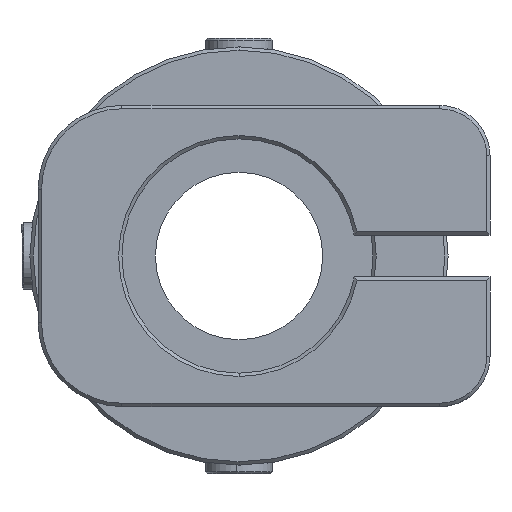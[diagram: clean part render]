
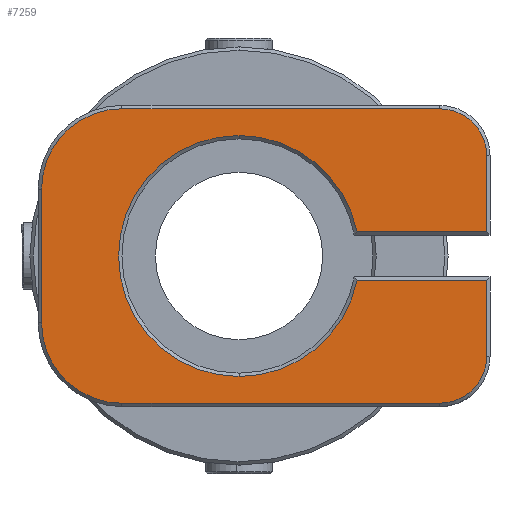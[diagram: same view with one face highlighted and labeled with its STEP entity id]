
A CAD part, front view. The second image highlights one B-rep face of the part: STEP entity #7259.
In plain terms, the highlighted planar face has unit normal (0, -1, 0).
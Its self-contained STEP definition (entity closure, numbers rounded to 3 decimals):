
#31 = LINE ( 'NONE', #2910, #1963 ) ;
#140 = VERTEX_POINT ( 'NONE', #2469 ) ;
#197 = DIRECTION ( 'NONE',  ( 0., -1., 0. ) ) ;
#203 = CIRCLE ( 'NONE', #2270, 7.2 ) ;
#218 = VERTEX_POINT ( 'NONE', #4386 ) ;
#260 = LINE ( 'NONE', #3743, #1951 ) ;
#328 = AXIS2_PLACEMENT_3D ( 'NONE', #1949, #7043, #2652 ) ;
#490 = DIRECTION ( 'NONE',  ( 1., 0., 0. ) ) ;
#501 = CIRCLE ( 'NONE', #8409, 7.2 ) ;
#549 = EDGE_CURVE ( 'NONE', #8662, #7968, #6831, .T. ) ;
#582 = CARTESIAN_POINT ( 'NONE',  ( 8.689, -8.15, 43.8 ) ) ;
#610 = EDGE_CURVE ( 'NONE', #4910, #5649, #6229, .T. ) ;
#741 = CARTESIAN_POINT ( 'NONE',  ( -3.311, -8.15, 35. ) ) ;
#1037 = AXIS2_PLACEMENT_3D ( 'NONE', #8374, #8402, #8017 ) ;
#1083 = LINE ( 'NONE', #3322, #8624 ) ;
#1099 = DIRECTION ( 'NONE',  ( 0., 1., 0. ) ) ;
#1243 = ORIENTED_EDGE ( 'NONE', *, *, #4814, .T. ) ;
#1271 = VERTEX_POINT ( 'NONE', #4690 ) ;
#1457 = DIRECTION ( 'NONE',  ( 0., 0., 1. ) ) ;
#1476 = ORIENTED_EDGE ( 'NONE', *, *, #6626, .T. ) ;
#1545 = LINE ( 'NONE', #7754, #9120 ) ;
#1551 = ORIENTED_EDGE ( 'NONE', *, *, #6221, .T. ) ;
#1625 = VERTEX_POINT ( 'NONE', #7552 ) ;
#1868 = EDGE_CURVE ( 'NONE', #5649, #2810, #7625, .T. ) ;
#1924 = FACE_OUTER_BOUND ( 'NONE', #7509, .T. ) ;
#1949 = CARTESIAN_POINT ( 'NONE',  ( 8.689, -8.15, 29. ) ) ;
#1951 = VECTOR ( 'NONE', #5199, 1000. ) ;
#1963 = VECTOR ( 'NONE', #7304, 1000. ) ;
#1997 = CARTESIAN_POINT ( 'NONE',  ( 11.489, -8.15, 35. ) ) ;
#2109 = AXIS2_PLACEMENT_3D ( 'NONE', #3336, #8502, #4045 ) ;
#2117 = ORIENTED_EDGE ( 'NONE', *, *, #610, .T. ) ;
#2186 = LINE ( 'NONE', #1997, #6031 ) ;
#2270 = AXIS2_PLACEMENT_3D ( 'NONE', #741, #5777, #1457 ) ;
#2382 = ORIENTED_EDGE ( 'NONE', *, *, #4177, .T. ) ;
#2391 = ORIENTED_EDGE ( 'NONE', *, *, #4536, .T. ) ;
#2411 = CIRCLE ( 'NONE', #9186, 7.2 ) ;
#2418 = ORIENTED_EDGE ( 'NONE', *, *, #7487, .T. ) ;
#2469 = CARTESIAN_POINT ( 'NONE',  ( 3.742, -8.15, 33.55 ) ) ;
#2652 = DIRECTION ( 'NONE',  ( 0., 0., 1. ) ) ;
#2810 = VERTEX_POINT ( 'NONE', #5201 ) ;
#2822 = DIRECTION ( 'NONE',  ( -1., 0., 0. ) ) ;
#2890 = CARTESIAN_POINT ( 'NONE',  ( -3.311, -8.15, 43.8 ) ) ;
#2910 = CARTESIAN_POINT ( 'NONE',  ( -15.111, -8.15, 35. ) ) ;
#3068 = EDGE_CURVE ( 'NONE', #8365, #8796, #9436, .T. ) ;
#3164 = ORIENTED_EDGE ( 'NONE', *, *, #8318, .T. ) ;
#3322 = CARTESIAN_POINT ( 'NONE',  ( -3.311, -8.15, 26.2 ) ) ;
#3336 = CARTESIAN_POINT ( 'NONE',  ( -3.311, -8.15, 35. ) ) ;
#3675 = VECTOR ( 'NONE', #2822, 1000. ) ;
#3743 = CARTESIAN_POINT ( 'NONE',  ( 3.577, -8.15, 33.55 ) ) ;
#3855 = DIRECTION ( 'NONE',  ( 0., 1., 0. ) ) ;
#4027 = CARTESIAN_POINT ( 'NONE',  ( -3.311, -8.15, 27.8 ) ) ;
#4045 = DIRECTION ( 'NONE',  ( 0., 0., 1. ) ) ;
#4091 = CARTESIAN_POINT ( 'NONE',  ( 3.742, -8.15, 36.45 ) ) ;
#4124 = CARTESIAN_POINT ( 'NONE',  ( 11.489, -8.15, 41. ) ) ;
#4177 = EDGE_CURVE ( 'NONE', #1625, #4852, #501, .T. ) ;
#4238 = VERTEX_POINT ( 'NONE', #9256 ) ;
#4281 = CARTESIAN_POINT ( 'NONE',  ( -10.311, -8.15, 26.2 ) ) ;
#4386 = CARTESIAN_POINT ( 'NONE',  ( 11.489, -8.15, 33.55 ) ) ;
#4459 = CARTESIAN_POINT ( 'NONE',  ( -10.311, -8.15, 39. ) ) ;
#4460 = CARTESIAN_POINT ( 'NONE',  ( -15.111, -8.15, 31. ) ) ;
#4536 = EDGE_CURVE ( 'NONE', #2810, #1271, #5375, .T. ) ;
#4690 = CARTESIAN_POINT ( 'NONE',  ( -15.111, -8.15, 39. ) ) ;
#4714 = LINE ( 'NONE', #8866, #6472 ) ;
#4814 = EDGE_CURVE ( 'NONE', #8796, #218, #1545, .T. ) ;
#4852 = VERTEX_POINT ( 'NONE', #4091 ) ;
#4910 = VERTEX_POINT ( 'NONE', #4124 ) ;
#5049 = AXIS2_PLACEMENT_3D ( 'NONE', #7305, #7551, #7620 ) ;
#5131 = DIRECTION ( 'NONE',  ( 1., 0., 0. ) ) ;
#5168 = ORIENTED_EDGE ( 'NONE', *, *, #8723, .T. ) ;
#5199 = DIRECTION ( 'NONE',  ( -1., 0., 0. ) ) ;
#5201 = CARTESIAN_POINT ( 'NONE',  ( -10.311, -8.15, 43.8 ) ) ;
#5206 = DIRECTION ( 'NONE',  ( 0., 0., 1. ) ) ;
#5375 = CIRCLE ( 'NONE', #8358, 4.8 ) ;
#5386 = CARTESIAN_POINT ( 'NONE',  ( -3.311, -8.15, 35. ) ) ;
#5635 = ORIENTED_EDGE ( 'NONE', *, *, #8872, .T. ) ;
#5649 = VERTEX_POINT ( 'NONE', #582 ) ;
#5777 = DIRECTION ( 'NONE',  ( 0., 1., 0. ) ) ;
#6031 = VECTOR ( 'NONE', #7090, 1000. ) ;
#6146 = DIRECTION ( 'NONE',  ( 0., 0., 1. ) ) ;
#6221 = EDGE_CURVE ( 'NONE', #1271, #8662, #31, .T. ) ;
#6229 = CIRCLE ( 'NONE', #1037, 2.8 ) ;
#6472 = VECTOR ( 'NONE', #5131, 1000. ) ;
#6626 = EDGE_CURVE ( 'NONE', #218, #140, #260, .T. ) ;
#6831 = CIRCLE ( 'NONE', #5049, 4.8 ) ;
#6926 = CARTESIAN_POINT ( 'NONE',  ( 11.489, -8.15, 29. ) ) ;
#6994 = EDGE_CURVE ( 'NONE', #4852, #4238, #4714, .T. ) ;
#7043 = DIRECTION ( 'NONE',  ( 0., -1., 0. ) ) ;
#7090 = DIRECTION ( 'NONE',  ( 0., 0., 1. ) ) ;
#7259 = ADVANCED_FACE ( 'NONE', ( #1924 ), #9217, .F. ) ;
#7304 = DIRECTION ( 'NONE',  ( 0., 0., -1. ) ) ;
#7305 = CARTESIAN_POINT ( 'NONE',  ( -10.311, -8.15, 31. ) ) ;
#7487 = EDGE_CURVE ( 'NONE', #140, #9211, #203, .T. ) ;
#7509 = EDGE_LOOP ( 'NONE', ( #5635, #8160, #1243, #1476, #2418, #5168, #2382, #8636, #3164, #2117, #8218, #2391, #1551, #9152 ) ) ;
#7551 = DIRECTION ( 'NONE',  ( 0., -1., 0. ) ) ;
#7552 = CARTESIAN_POINT ( 'NONE',  ( -3.311, -8.15, 42.2 ) ) ;
#7620 = DIRECTION ( 'NONE',  ( 0., 0., 1. ) ) ;
#7625 = LINE ( 'NONE', #2890, #3675 ) ;
#7754 = CARTESIAN_POINT ( 'NONE',  ( 11.489, -8.15, 35. ) ) ;
#7968 = VERTEX_POINT ( 'NONE', #4281 ) ;
#8017 = DIRECTION ( 'NONE',  ( 0., 0., 1. ) ) ;
#8160 = ORIENTED_EDGE ( 'NONE', *, *, #3068, .T. ) ;
#8218 = ORIENTED_EDGE ( 'NONE', *, *, #1868, .T. ) ;
#8312 = CARTESIAN_POINT ( 'NONE',  ( -3.311, -8.15, 35. ) ) ;
#8318 = EDGE_CURVE ( 'NONE', #4238, #4910, #2186, .T. ) ;
#8358 = AXIS2_PLACEMENT_3D ( 'NONE', #4459, #197, #5206 ) ;
#8365 = VERTEX_POINT ( 'NONE', #8617 ) ;
#8374 = CARTESIAN_POINT ( 'NONE',  ( 8.689, -8.15, 41. ) ) ;
#8402 = DIRECTION ( 'NONE',  ( 0., -1., 0. ) ) ;
#8409 = AXIS2_PLACEMENT_3D ( 'NONE', #5386, #1099, #6146 ) ;
#8502 = DIRECTION ( 'NONE',  ( 0., 1., 0. ) ) ;
#8546 = DIRECTION ( 'NONE',  ( 0., 0., 1. ) ) ;
#8617 = CARTESIAN_POINT ( 'NONE',  ( 8.689, -8.15, 26.2 ) ) ;
#8624 = VECTOR ( 'NONE', #490, 1000. ) ;
#8636 = ORIENTED_EDGE ( 'NONE', *, *, #6994, .T. ) ;
#8662 = VERTEX_POINT ( 'NONE', #4460 ) ;
#8723 = EDGE_CURVE ( 'NONE', #9211, #1625, #2411, .T. ) ;
#8796 = VERTEX_POINT ( 'NONE', #6926 ) ;
#8866 = CARTESIAN_POINT ( 'NONE',  ( 11.689, -8.15, 36.45 ) ) ;
#8872 = EDGE_CURVE ( 'NONE', #7968, #8365, #1083, .T. ) ;
#9050 = DIRECTION ( 'NONE',  ( 0., 0., 1. ) ) ;
#9120 = VECTOR ( 'NONE', #8546, 1000. ) ;
#9152 = ORIENTED_EDGE ( 'NONE', *, *, #549, .T. ) ;
#9186 = AXIS2_PLACEMENT_3D ( 'NONE', #8312, #3855, #9050 ) ;
#9211 = VERTEX_POINT ( 'NONE', #4027 ) ;
#9217 = PLANE ( 'NONE',  #2109 ) ;
#9256 = CARTESIAN_POINT ( 'NONE',  ( 11.489, -8.15, 36.45 ) ) ;
#9436 = CIRCLE ( 'NONE', #328, 2.8 ) ;
